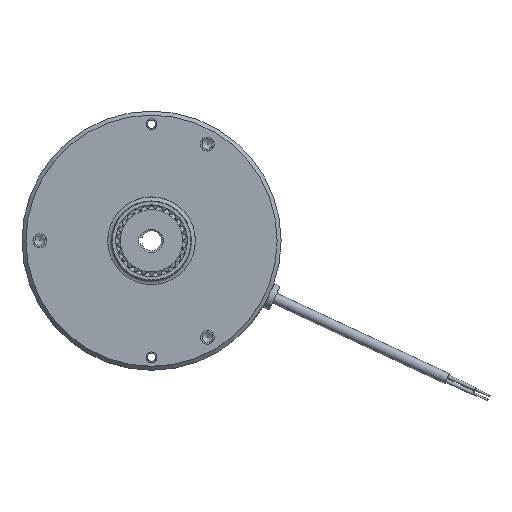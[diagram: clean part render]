
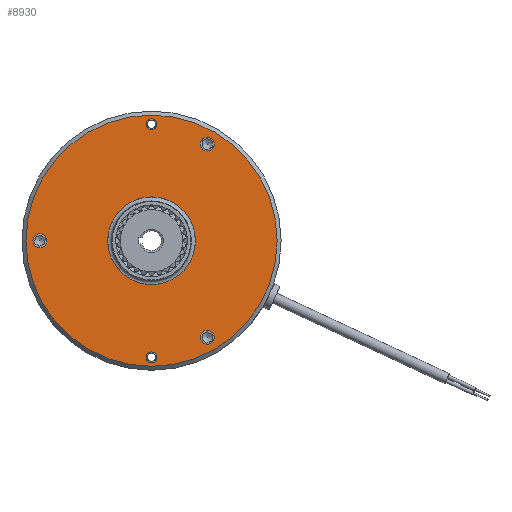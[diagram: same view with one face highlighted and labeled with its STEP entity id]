
A CAD part, left-side view. The second image highlights one B-rep face of the part: STEP entity #8930.
In plain terms, the highlighted planar face has unit normal (-1, 0, 0).
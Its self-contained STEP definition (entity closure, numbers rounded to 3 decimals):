
#699=FACE_BOUND('',#2034,.T.);
#700=FACE_BOUND('',#2035,.T.);
#701=FACE_BOUND('',#2036,.T.);
#702=FACE_BOUND('',#2037,.T.);
#703=FACE_BOUND('',#2038,.T.);
#704=FACE_BOUND('',#2039,.T.);
#1015=CIRCLE('',#9689,22.);
#1018=CIRCLE('',#9694,3.5);
#1019=CIRCLE('',#9696,3.5);
#1020=CIRCLE('',#9698,3.5);
#1021=CIRCLE('',#9700,63.);
#1022=CIRCLE('',#9701,2.7);
#1023=CIRCLE('',#9702,2.7);
#1024=CIRCLE('',#9703,2.7);
#1025=CIRCLE('',#9704,2.7);
#1539=FACE_OUTER_BOUND('',#2033,.T.);
#2033=EDGE_LOOP('',(#6877));
#2034=EDGE_LOOP('',(#6878,#6879));
#2035=EDGE_LOOP('',(#6880,#6881));
#2036=EDGE_LOOP('',(#6882));
#2037=EDGE_LOOP('',(#6883));
#2038=EDGE_LOOP('',(#6884));
#2039=EDGE_LOOP('',(#6885));
#3723=VERTEX_POINT('',#15055);
#3726=VERTEX_POINT('',#15064);
#3727=VERTEX_POINT('',#15068);
#3728=VERTEX_POINT('',#15072);
#3729=VERTEX_POINT('',#15076);
#3730=VERTEX_POINT('',#15078);
#3731=VERTEX_POINT('',#15079);
#3732=VERTEX_POINT('',#15082);
#3733=VERTEX_POINT('',#15083);
#4851=EDGE_CURVE('',#3723,#3723,#1015,.T.);
#4855=EDGE_CURVE('',#3726,#3726,#1018,.T.);
#4857=EDGE_CURVE('',#3727,#3727,#1019,.T.);
#4859=EDGE_CURVE('',#3728,#3728,#1020,.T.);
#4860=EDGE_CURVE('',#3729,#3729,#1021,.T.);
#4861=EDGE_CURVE('',#3730,#3731,#1022,.T.);
#4862=EDGE_CURVE('',#3731,#3730,#1023,.T.);
#4863=EDGE_CURVE('',#3732,#3733,#1024,.T.);
#4864=EDGE_CURVE('',#3733,#3732,#1025,.T.);
#6877=ORIENTED_EDGE('',*,*,#4860,.F.);
#6878=ORIENTED_EDGE('',*,*,#4861,.T.);
#6879=ORIENTED_EDGE('',*,*,#4862,.T.);
#6880=ORIENTED_EDGE('',*,*,#4863,.T.);
#6881=ORIENTED_EDGE('',*,*,#4864,.T.);
#6882=ORIENTED_EDGE('',*,*,#4851,.T.);
#6883=ORIENTED_EDGE('',*,*,#4855,.T.);
#6884=ORIENTED_EDGE('',*,*,#4857,.T.);
#6885=ORIENTED_EDGE('',*,*,#4859,.T.);
#8170=PLANE('',#9699);
#8930=ADVANCED_FACE('',(#1539,#699,#700,#701,#702,#703,#704),#8170,.T.);
#9689=AXIS2_PLACEMENT_3D('',#15057,#11481,#11482);
#9694=AXIS2_PLACEMENT_3D('',#15066,#11492,#11493);
#9696=AXIS2_PLACEMENT_3D('',#15070,#11497,#11498);
#9698=AXIS2_PLACEMENT_3D('',#15074,#11502,#11503);
#9699=AXIS2_PLACEMENT_3D('',#15075,#11504,#11505);
#9700=AXIS2_PLACEMENT_3D('',#15077,#11506,#11507);
#9701=AXIS2_PLACEMENT_3D('',#15080,#11508,#11509);
#9702=AXIS2_PLACEMENT_3D('',#15081,#11510,#11511);
#9703=AXIS2_PLACEMENT_3D('',#15084,#11512,#11513);
#9704=AXIS2_PLACEMENT_3D('',#15085,#11514,#11515);
#11481=DIRECTION('center_axis',(1.,0.,0.));
#11482=DIRECTION('ref_axis',(0.,0.,1.));
#11492=DIRECTION('center_axis',(1.,0.,0.));
#11493=DIRECTION('ref_axis',(0.,0.,-1.));
#11497=DIRECTION('center_axis',(1.,0.,0.));
#11498=DIRECTION('ref_axis',(0.,0.,-1.));
#11502=DIRECTION('center_axis',(1.,0.,0.));
#11503=DIRECTION('ref_axis',(0.,0.,-1.));
#11504=DIRECTION('center_axis',(-1.,0.,0.));
#11505=DIRECTION('ref_axis',(0.,0.,1.));
#11506=DIRECTION('center_axis',(1.,0.,0.));
#11507=DIRECTION('ref_axis',(0.,-1.,0.));
#11508=DIRECTION('center_axis',(1.,0.,0.));
#11509=DIRECTION('ref_axis',(0.,0.,1.));
#11510=DIRECTION('center_axis',(1.,0.,0.));
#11511=DIRECTION('ref_axis',(0.,0.,1.));
#11512=DIRECTION('center_axis',(1.,0.,0.));
#11513=DIRECTION('ref_axis',(0.,0.,1.));
#11514=DIRECTION('center_axis',(1.,0.,0.));
#11515=DIRECTION('ref_axis',(0.,0.,1.));
#15055=CARTESIAN_POINT('',(-33.2,0.,-22.));
#15057=CARTESIAN_POINT('Origin',(-33.2,0.,0.));
#15064=CARTESIAN_POINT('',(-33.2,-28.,-44.997));
#15066=CARTESIAN_POINT('Origin',(-33.2,-28.,-48.497));
#15068=CARTESIAN_POINT('',(-33.2,56.,3.5));
#15070=CARTESIAN_POINT('Origin',(-33.2,56.,0.));
#15072=CARTESIAN_POINT('',(-33.2,-28.,51.997));
#15074=CARTESIAN_POINT('Origin',(-33.2,-28.,48.497));
#15075=CARTESIAN_POINT('Origin',(-33.2,32.5,0.));
#15076=CARTESIAN_POINT('',(-33.2,63.,0.));
#15077=CARTESIAN_POINT('Origin',(-33.2,0.,0.));
#15078=CARTESIAN_POINT('',(-33.2,0.,-55.8));
#15079=CARTESIAN_POINT('',(-33.2,0.,-61.2));
#15080=CARTESIAN_POINT('Origin',(-33.2,0.,-58.5));
#15081=CARTESIAN_POINT('Origin',(-33.2,0.,-58.5));
#15082=CARTESIAN_POINT('',(-33.2,0.,61.2));
#15083=CARTESIAN_POINT('',(-33.2,0.,55.8));
#15084=CARTESIAN_POINT('Origin',(-33.2,0.,58.5));
#15085=CARTESIAN_POINT('Origin',(-33.2,0.,58.5));
